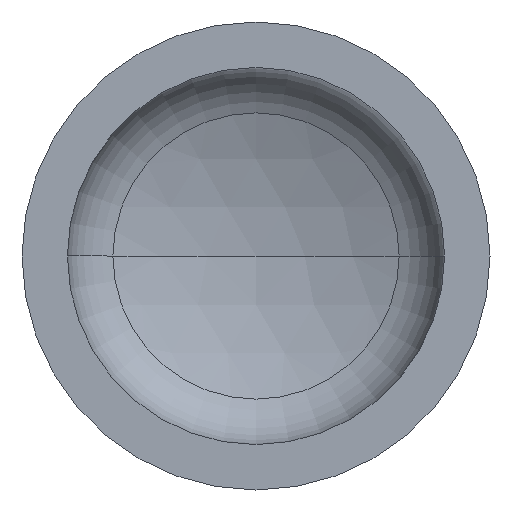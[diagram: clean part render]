
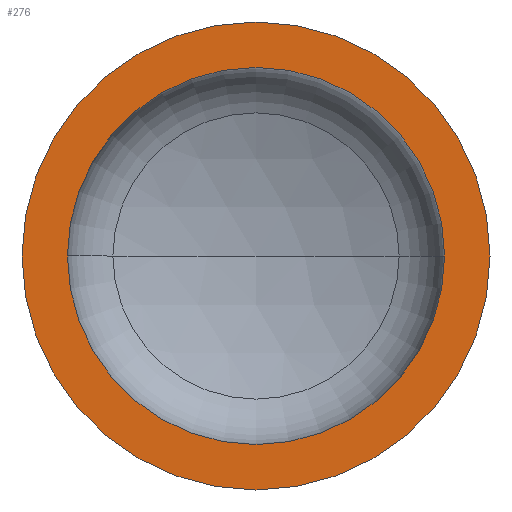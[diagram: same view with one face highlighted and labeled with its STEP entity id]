
A CAD part, front view. The second image highlights one B-rep face of the part: STEP entity #276.
In plain terms, the highlighted planar face has unit normal (0, -1, 0).
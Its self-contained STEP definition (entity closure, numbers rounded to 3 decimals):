
#6 = AXIS2_PLACEMENT_3D ( 'NONE', #233, #410, #332 ) ;
#7 = VERTEX_POINT ( 'NONE', #286 ) ;
#10 = EDGE_LOOP ( 'NONE', ( #56, #203 ) ) ;
#39 = ORIENTED_EDGE ( 'NONE', *, *, #108, .T. ) ;
#46 = AXIS2_PLACEMENT_3D ( 'NONE', #274, #166, #89 ) ;
#56 = ORIENTED_EDGE ( 'NONE', *, *, #109, .F. ) ;
#73 = VERTEX_POINT ( 'NONE', #234 ) ;
#77 = AXIS2_PLACEMENT_3D ( 'NONE', #351, #200, #123 ) ;
#89 = DIRECTION ( 'NONE',  ( -1., 0., 0. ) ) ;
#91 = AXIS2_PLACEMENT_3D ( 'NONE', #198, #201, #348 ) ;
#93 = AXIS2_PLACEMENT_3D ( 'NONE', #323, #321, #317 ) ;
#108 = EDGE_CURVE ( 'NONE', #128, #226, #191, .T. ) ;
#109 = EDGE_CURVE ( 'NONE', #73, #7, #253, .T. ) ;
#119 = EDGE_CURVE ( 'NONE', #226, #128, #179, .T. ) ;
#123 = DIRECTION ( 'NONE',  ( 1., 0., 0. ) ) ;
#128 = VERTEX_POINT ( 'NONE', #255 ) ;
#166 = DIRECTION ( 'NONE',  ( 0., 1., 0. ) ) ;
#167 = PLANE ( 'NONE',  #46 ) ;
#179 = CIRCLE ( 'NONE', #77, 350. ) ;
#191 = CIRCLE ( 'NONE', #93, 350. ) ;
#198 = CARTESIAN_POINT ( 'NONE',  ( 0., 0., 0. ) ) ;
#200 = DIRECTION ( 'NONE',  ( 0., -1., 0. ) ) ;
#201 = DIRECTION ( 'NONE',  ( 0., -1., 0. ) ) ;
#203 = ORIENTED_EDGE ( 'NONE', *, *, #382, .F. ) ;
#210 = EDGE_LOOP ( 'NONE', ( #393, #39 ) ) ;
#226 = VERTEX_POINT ( 'NONE', #394 ) ;
#233 = CARTESIAN_POINT ( 'NONE',  ( 0., 0., 0. ) ) ;
#234 = CARTESIAN_POINT ( 'NONE',  ( 282., 0., 0. ) ) ;
#253 = CIRCLE ( 'NONE', #91, 282. ) ;
#255 = CARTESIAN_POINT ( 'NONE',  ( -350., 0., 0. ) ) ;
#257 = CIRCLE ( 'NONE', #6, 282. ) ;
#274 = CARTESIAN_POINT ( 'NONE',  ( -350., 0., 0. ) ) ;
#276 = ADVANCED_FACE ( 'NONE', ( #347, #359 ), #167, .F. ) ;
#286 = CARTESIAN_POINT ( 'NONE',  ( -282., 0., 0. ) ) ;
#317 = DIRECTION ( 'NONE',  ( 1., 0., 0. ) ) ;
#321 = DIRECTION ( 'NONE',  ( 0., -1., 0. ) ) ;
#323 = CARTESIAN_POINT ( 'NONE',  ( 0., 0., 0. ) ) ;
#332 = DIRECTION ( 'NONE',  ( 1., 0., 0. ) ) ;
#347 = FACE_BOUND ( 'NONE', #10, .T. ) ;
#348 = DIRECTION ( 'NONE',  ( 1., 0., 0. ) ) ;
#351 = CARTESIAN_POINT ( 'NONE',  ( 0., 0., 0. ) ) ;
#359 = FACE_OUTER_BOUND ( 'NONE', #210, .T. ) ;
#382 = EDGE_CURVE ( 'NONE', #7, #73, #257, .T. ) ;
#393 = ORIENTED_EDGE ( 'NONE', *, *, #119, .T. ) ;
#394 = CARTESIAN_POINT ( 'NONE',  ( 350., 0., 0. ) ) ;
#410 = DIRECTION ( 'NONE',  ( 0., -1., 0. ) ) ;
